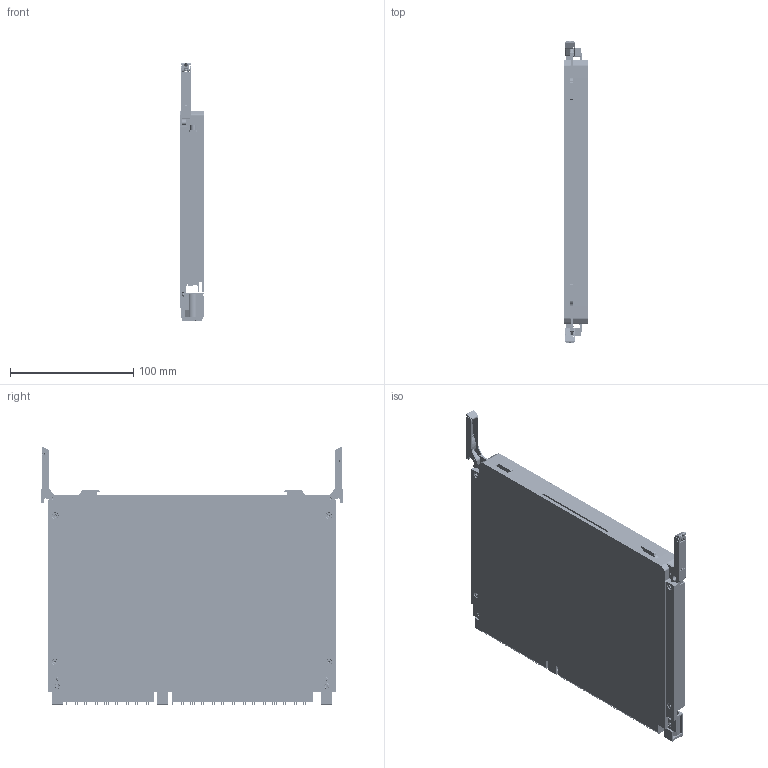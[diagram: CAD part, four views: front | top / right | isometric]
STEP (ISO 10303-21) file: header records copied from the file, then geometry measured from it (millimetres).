
FILE_DESCRIPTION (( 'STEP AP214' ), '1' );
FILE_NAME ('6U-VPX48.2-PS-260-311-TC OPEN.STEP', '2018-06-19T14:04:58', ( '' ), ( '' ), 'SwSTEP 2.0', 'SolidWorks 2014', '' );
FILE_SCHEMA (( 'AUTOMOTIVE_DESIGN' ));
Length unit declared in the file: inch
Products named in the file (20): RH 311-TC_SDG; LH 311-TC_SDG; 322307-18_92010A016; FRAME_311-TC_6UVPX48.2-800-260 PSR - ALTERNATE LEVER; PMC-XMC COVER; 6U-VPX48.2-PS-260-311-TC OPEN; SECONDARY SIDE COVER_311-TC_265; Single Mezzanine board assembly; c-2102060-1-e-3d; 714362164; PMC-XMC BOARD_PMC XMC VITA 20 VITA 42; VPX BOARD ASSEMBLY_6UXMC VITA 42 board only_311-TC; 714390164; c-2102061-1-g-3d; 1410189-3; 1774226_1-1469492-9; 1410187-3; VPX BOARD_6UVPX48.2_311-TC; CCA FRAME ASSEMBLY_311-TC_6UVPX48.2-800-260 FRAME ASSY FULLY EXTRACTED - ALTERNATE LEVER; 260-4.80
Assembly tree (53 placements, depth 3):
  6U-VPX48.2-PS-260-311-TC OPEN
    CCA FRAME ASSEMBLY_311-TC_6UVPX48.2-800-260 FRAME ASSY FULLY EXTRACTED - ALTERNATE LEVER
      FRAME_311-TC_6UVPX48.2-800-260 PSR - ALTERNATE LEVER
      322307-18_92010A016  x6
      LH 311-TC_SDG
      RH 311-TC_SDG
      260-4.80  x2
    322307-18_92010A016  x13
    VPX BOARD ASSEMBLY_6UXMC VITA 42 board only_311-TC
      VPX BOARD_6UVPX48.2_311-TC
      1410187-3  x6
      1774226_1-1469492-9  x3
      1410189-3
      c-2102061-1-g-3d  x2
      714390164  x4
    Single Mezzanine board assembly
      PMC-XMC BOARD_PMC XMC VITA 20 VITA 42
      714362164  x4
      c-2102060-1-e-3d  x2
    SECONDARY SIDE COVER_311-TC_265
    PMC-XMC COVER
Bounding box: 19.09 x 245.03 x 209.51 mm (x, y, z)
Volume: 535678.2 mm3; surface area: 361320.7 mm2
Topology: 320 solids, 322 shells, 25272 faces, 67841 edges, 44754 vertices
Faces by surface type: plane 21673, cylinder 2651, bspline 587, cone 355, torus 6
Full cylindrical faces by diameter (mm): 0.356 x6, 0.43 x26, 0.5 x228, 0.559 x2, 0.635 x2, 0.813 x2, 0.864 x2, 0.965 x2, 1.05 x33, 1.067 x4, 1.092 x4, 1.2 x16, 1.213 x4, 1.219 x2, 1.321 x2, 1.524 x2, 1.6 x12, 1.651 x2, 1.702 x4, 1.778 x6, 2.032 x2, 2.05 x2, 2.2 x15, 2.5 x190, 2.55 x20, 2.7 x18, 2.794 x2, 2.845 x2, 2.9 x10, 2.921 x2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
Entity records: 274075 total; most frequent: CARTESIAN_POINT 70551, ORIENTED_EDGE 40820, DIRECTION 37707, EDGE_CURVE 20410, VECTOR 17699, LINE 17699, VERTEX_POINT 13714, AXIS2_PLACEMENT_3D 10004
